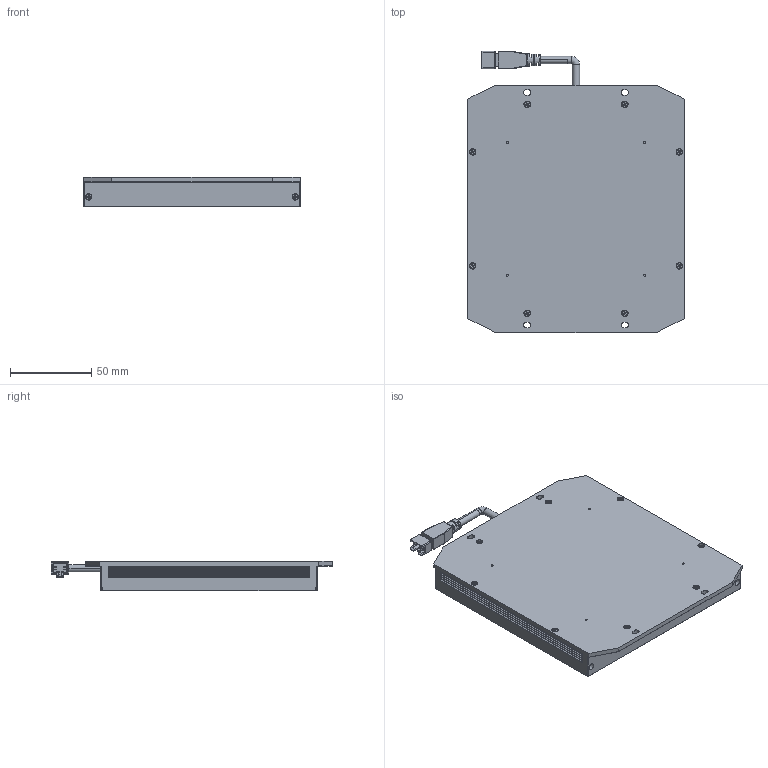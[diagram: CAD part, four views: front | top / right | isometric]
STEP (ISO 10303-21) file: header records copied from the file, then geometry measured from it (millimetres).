
FILE_DESCRIPTION((''),'2;1');
FILE_NAME('PRT0001','2022-11-04T18:06:04',('lizhoupeng'),(''),'CREO PARAMETRIC BY PTC INC, 2020044','CREO PARAMETRIC BY PTC INC, 2020044','');
FILE_SCHEMA(('CONFIG_CONTROL_DESIGN'));
Length unit declared in the file: millimetre
Products named in the file (1): PRT0001
Bounding box: 133 x 172.75 x 18 mm (x, y, z)
Volume: 326332.5 mm3; surface area: 54985.5 mm2
Topology: 1 solids, 40 shells, 1287 faces, 3045 edges, 1845 vertices
Faces by surface type: plane 773, cylinder 338, cone 110, torus 50, sphere 8, bspline 8
Entity records: 36891 total; most frequent: CARTESIAN_POINT 7212, DIRECTION 6222, ORIENTED_EDGE 6042, EDGE_CURVE 3021, AXIS2_PLACEMENT_3D 2120, VECTOR 1982, LINE 1982, VERTEX_POINT 1845
